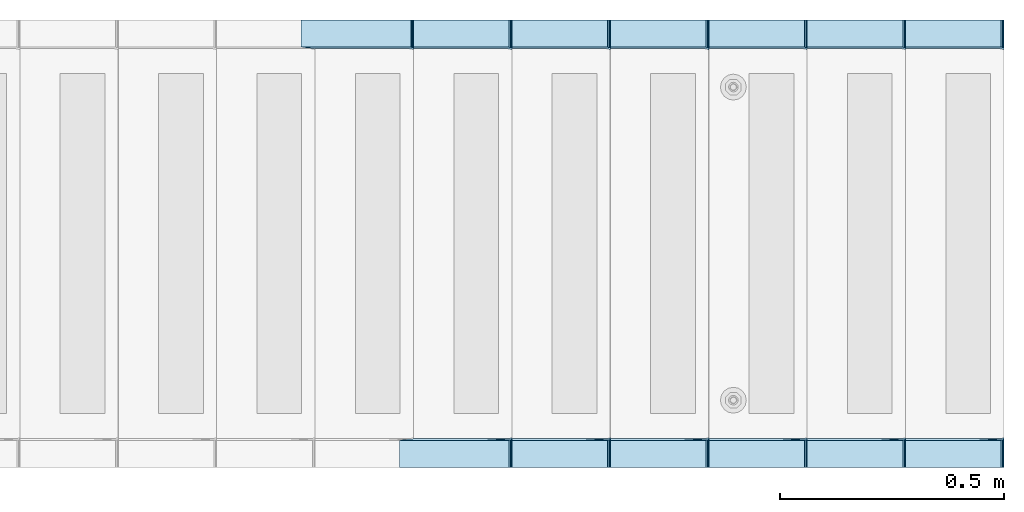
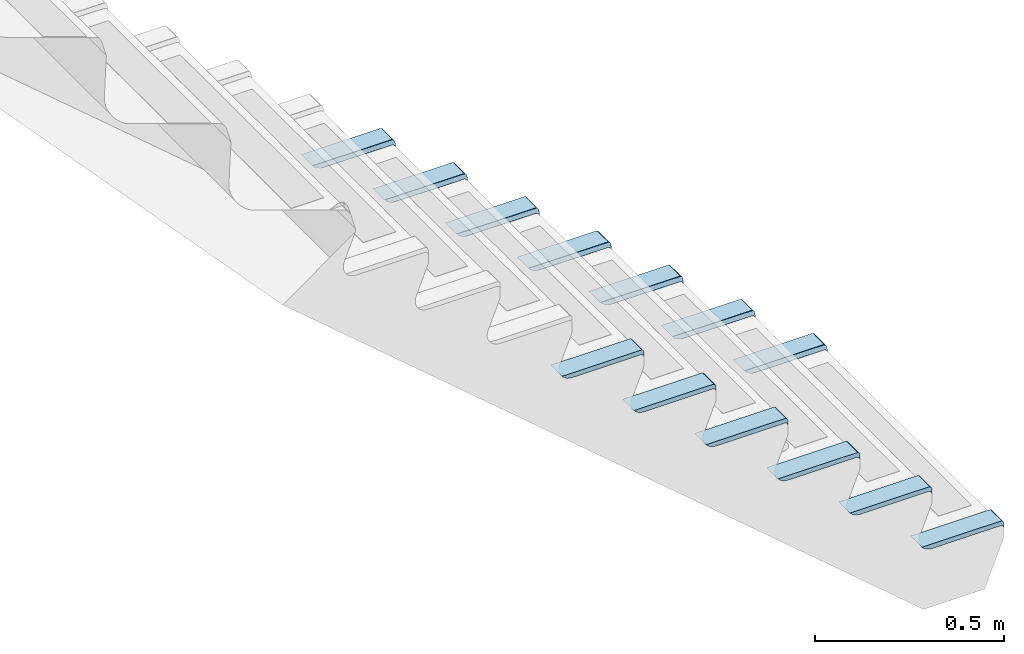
# One storey, part 4 of 4: 13 slabs, 1 element without a shape of its own.
"""IFC2X3 building model written with IfcOpenShell, lengths in millimetres."""

from ifc_helpers import new_model, si_unit, frame, origin_with_axes, place, context, subcontext, project, spatial, faceted_brep, material, type_object, element, aggregate, save


model = new_model("IFC2X3")

# Units and contexts
model_context = context("Model", 3, precision=1e-05, world=origin_with_axes())
body_context = subcontext(model_context, "Body", "Model", "MODEL_VIEW")
ifc_project = project(units=[si_unit("LENGTHUNIT", "METRE", prefix="MILLI"), si_unit("AREAUNIT", "SQUARE_METRE"), si_unit("VOLUMEUNIT", "CUBIC_METRE"), si_unit("MASSUNIT", "GRAM", prefix="KILO"), si_unit("TIMEUNIT", "SECOND"), si_unit("PLANEANGLEUNIT", "RADIAN"), si_unit("SOLIDANGLEUNIT", "STERADIAN"), si_unit("THERMODYNAMICTEMPERATUREUNIT", "DEGREE_CELSIUS"), si_unit("LUMINOUSINTENSITYUNIT", "LUMEN")], contexts=[model_context])

# Site, building, storey
site_placement = place(None, origin_with_axes())
site = spatial("IfcSite", under=ifc_project, at=site_placement, Name="Undefined", CompositionType="ELEMENT")
building_placement = place(site_placement, origin_with_axes())
building = spatial("IfcBuilding", under=site, at=building_placement, Name="Undefined", CompositionType="ELEMENT")
storey_placement = place(building_placement, origin_with_axes())
storey = spatial("IfcBuildingStorey", under=building, at=storey_placement, Name="Undefined", CompositionType="ELEMENT", Elevation=0.0)

# Assembly, slabs
assembly_placement = place(storey_placement, origin_with_axes())
assembly = element("IfcElementAssembly", 1, at=assembly_placement, inside=storey, Name="Trap met bomen", AssemblyPlace="NOTDEFINED", PredefinedType="REINFORCEMENT_UNIT")
ifc_material = material(Name="CONCRETE/C55/67")
slab_type = type_object("IfcSlabType", Name="60*25", PredefinedType="NOTDEFINED")
slab_1_placement = place(assembly_placement, frame((6680.0, 12470.0, 1327.5), z_axis=(0.0, -1.0, 0.0), x_axis=(-1.0, 0.0, 0.0)))
slab_1 = element("IfcSlab", 2, at=slab_1_placement, type_object=slab_type, material=ifc_material, Name="Ridge", ObjectType="60*25", PredefinedType="FLOOR", context=body_context, shape_type="Brep", body=[
    faceted_brep([(220.0, 15.0, 34.0192379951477), (10.0, 15.0, 34.0192379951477), (228.881989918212, 14.0014135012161, 33.2859476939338), (0.0, 25.0, 36.6987299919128), (0.0, 10.0, 32.6794919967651), (0.761204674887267, 21.1731656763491, 36.0288569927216), (2.92893218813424, 17.9289321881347, 35.3589839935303), (6.17316567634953, 15.7612046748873, 34.689110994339), (237.320508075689, 11.0555127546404, 32.467074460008), (244.894224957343, 6.30938459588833, 31.648201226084), (2.92893218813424, 2.9289321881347, 31.3397459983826), (0.761204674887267, 6.17316567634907, 32.0096189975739), (6.17316567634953, 0.761204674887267, 30.6698729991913), (251.224989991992, 0.0, 30.0), (10.0, 0.0, 30.0), (0.0, 25.0, -30.0), (0.0, 10.0, -30.0), (0.761204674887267, 21.1731656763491, -30.0), (2.92893218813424, 17.9289321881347, -30.0), (6.17316567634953, 15.7612046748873, -30.0), (10.0, 15.0, -30.0), (220.0, 15.0, -30.0), (228.881989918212, 14.0014135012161, -30.0), (237.320508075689, 11.0555127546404, -30.0), (244.894224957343, 6.30938459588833, -30.0), (251.224989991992, 0.0, -30.0), (10.0, 0.0, -30.0), (6.17316567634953, 0.761204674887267, -30.0), (2.92893218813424, 2.9289321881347, -30.0), (0.761204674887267, 6.17316567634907, -30.0)], [[[0, 1, 2]], [[3, 4, 5]], [[6, 5, 4]], [[7, 6, 4]], [[7, 4, 1]], [[8, 2, 1]], [[8, 1, 4]], [[9, 8, 4]], [[10, 9, 11]], [[12, 9, 10]], [[13, 9, 12]], [[14, 13, 12]], [[4, 3, 15, 16]], [[3, 5, 17, 15]], [[5, 6, 18, 17]], [[6, 7, 19, 18]], [[7, 1, 20, 19]], [[1, 0, 21, 20]], [[0, 2, 22, 21]], [[2, 8, 23, 22]], [[8, 9, 24, 23]], [[9, 13, 25, 24]], [[13, 14, 26, 25]], [[14, 12, 27, 26]], [[12, 10, 28, 27]], [[10, 11, 29, 28]], [[11, 4, 16, 29]], [[17, 18, 19, 20, 21, 22, 23, 24, 25, 26, 27, 28, 29, 16, 15]], [[11, 9, 4]]]),
])
slab_2_placement = place(assembly_placement, frame((6900.0, 11530.0, 1140.0), z_axis=(0.0, -1.0, 0.0), x_axis=(-1.0, 0.0, 0.0)))
slab_2 = element("IfcSlab", 3, at=slab_2_placement, type_object=slab_type, material=ifc_material, Name="Ridge", ObjectType="60*25", PredefinedType="FLOOR", context=body_context, shape_type="Brep", body=[
    faceted_brep([(10.0, 0.0, -30.0), (6.17316567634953, 0.761204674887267, -30.6698729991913), (251.224989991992, 0.0, -30.0), (2.92893218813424, 2.9289321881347, -31.3397459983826), (0.761204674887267, 6.17316567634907, -32.0096189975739), (244.894224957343, 6.30938459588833, -31.648201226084), (0.0, 10.0, -32.6794919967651), (237.320508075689, 11.0555127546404, -32.467074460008), (228.881989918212, 14.0014135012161, -33.2859476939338), (220.0, 15.0, -34.0192379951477), (10.0, 15.0, -34.0192379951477), (6.17316567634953, 15.7612046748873, -34.689110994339), (2.92893218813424, 17.9289321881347, -35.3589839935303), (0.761204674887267, 21.1731656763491, -36.0288569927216), (0.0, 10.0, 30.0), (0.0, 25.0, 30.0), (0.0, 25.0, -36.6987299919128), (0.761204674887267, 21.1731656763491, 30.0), (2.92893218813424, 17.9289321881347, 30.0), (6.17316567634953, 15.7612046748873, 30.0), (10.0, 15.0, 30.0), (220.0, 15.0, 30.0), (228.881989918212, 14.0014135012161, 30.0), (237.320508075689, 11.0555127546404, 30.0), (244.894224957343, 6.30938459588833, 30.0), (251.224989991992, 0.0, 30.0), (10.0, 0.0, 30.0), (6.17316567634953, 0.761204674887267, 30.0), (2.92893218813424, 2.9289321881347, 30.0), (0.761204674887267, 6.17316567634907, 30.0)], [[[0, 1, 2]], [[3, 2, 1]], [[4, 2, 3]], [[5, 2, 4]], [[6, 5, 4]], [[7, 5, 6]], [[8, 7, 6]], [[9, 8, 6]], [[10, 9, 6]], [[11, 10, 6]], [[12, 11, 6]], [[13, 12, 6]], [[14, 15, 16, 6]], [[15, 17, 13, 16]], [[17, 18, 12, 13]], [[18, 19, 11, 12]], [[19, 20, 10, 11]], [[20, 21, 9, 10]], [[21, 22, 8, 9]], [[22, 23, 7, 8]], [[23, 24, 5, 7]], [[24, 25, 2, 5]], [[25, 26, 0, 2]], [[26, 27, 1, 0]], [[27, 28, 3, 1]], [[28, 29, 4, 3]], [[29, 14, 6, 4]], [[16, 13, 6]], [[29, 28, 27, 26, 25, 24, 23, 22, 21, 20, 19, 18, 17, 15, 14]]]),
])
slab_3_placement = place(assembly_placement, frame((6900.0, 12470.0, 1140.0), z_axis=(0.0, -1.0, 0.0), x_axis=(-1.0, 0.0, 0.0)))
slab_3 = element("IfcSlab", 4, at=slab_3_placement, type_object=slab_type, material=ifc_material, Name="Ridge", ObjectType="60*25", PredefinedType="FLOOR", context=body_context, shape_type="Brep", body=[
    faceted_brep([(220.0, 15.0, 34.0192379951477), (10.0, 15.0, 34.0192379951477), (228.881989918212, 14.0014135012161, 33.2859476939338), (0.0, 25.0, 36.6987299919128), (0.0, 10.0, 32.6794919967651), (0.761204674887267, 21.1731656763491, 36.0288569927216), (2.92893218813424, 17.9289321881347, 35.3589839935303), (6.17316567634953, 15.7612046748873, 34.689110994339), (237.320508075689, 11.0555127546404, 32.467074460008), (244.894224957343, 6.30938459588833, 31.648201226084), (2.92893218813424, 2.9289321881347, 31.3397459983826), (0.761204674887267, 6.17316567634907, 32.0096189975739), (6.17316567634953, 0.761204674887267, 30.6698729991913), (251.224989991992, 0.0, 30.0), (10.0, 0.0, 30.0), (0.0, 25.0, -30.0), (0.0, 10.0, -30.0), (0.761204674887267, 21.1731656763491, -30.0), (2.92893218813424, 17.9289321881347, -30.0), (6.17316567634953, 15.7612046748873, -30.0), (10.0, 15.0, -30.0), (220.0, 15.0, -30.0), (228.881989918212, 14.0014135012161, -30.0), (237.320508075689, 11.0555127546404, -30.0), (244.894224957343, 6.30938459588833, -30.0), (251.224989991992, 0.0, -30.0), (10.0, 0.0, -30.0), (6.17316567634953, 0.761204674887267, -30.0), (2.92893218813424, 2.9289321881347, -30.0), (0.761204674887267, 6.17316567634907, -30.0)], [[[0, 1, 2]], [[3, 4, 5]], [[6, 5, 4]], [[7, 6, 4]], [[7, 4, 1]], [[8, 2, 1]], [[8, 1, 4]], [[9, 8, 4]], [[10, 9, 11]], [[12, 9, 10]], [[13, 9, 12]], [[14, 13, 12]], [[4, 3, 15, 16]], [[3, 5, 17, 15]], [[5, 6, 18, 17]], [[6, 7, 19, 18]], [[7, 1, 20, 19]], [[1, 0, 21, 20]], [[0, 2, 22, 21]], [[2, 8, 23, 22]], [[8, 9, 24, 23]], [[9, 13, 25, 24]], [[13, 14, 26, 25]], [[14, 12, 27, 26]], [[12, 10, 28, 27]], [[10, 11, 29, 28]], [[11, 4, 16, 29]], [[17, 18, 19, 20, 21, 22, 23, 24, 25, 26, 27, 28, 29, 16, 15]], [[11, 9, 4]]]),
])
slab_4_placement = place(assembly_placement, frame((7120.0, 11530.0, 952.500000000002), z_axis=(0.0, -1.0, 0.0), x_axis=(-1.0, 0.0, 0.0)))
slab_4 = element("IfcSlab", 5, at=slab_4_placement, type_object=slab_type, material=ifc_material, Name="Ridge", ObjectType="60*25", PredefinedType="FLOOR", context=body_context, shape_type="Brep", body=[
    faceted_brep([(10.0, 0.0, -30.0), (6.17316567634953, 0.761204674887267, -30.6698729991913), (251.224989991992, 0.0, -30.0), (2.92893218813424, 2.9289321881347, -31.3397459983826), (0.761204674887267, 6.17316567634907, -32.0096189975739), (244.894224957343, 6.30938459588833, -31.648201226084), (0.0, 10.0, -32.6794919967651), (237.320508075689, 11.0555127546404, -32.467074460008), (228.881989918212, 14.0014135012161, -33.2859476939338), (220.0, 15.0, -34.0192379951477), (10.0, 15.0, -34.0192379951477), (6.17316567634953, 15.7612046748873, -34.689110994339), (2.92893218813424, 17.9289321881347, -35.3589839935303), (0.761204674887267, 21.1731656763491, -36.0288569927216), (0.0, 10.0, 30.0), (0.0, 25.0, 30.0), (0.0, 25.0, -36.6987299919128), (0.761204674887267, 21.1731656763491, 30.0), (2.92893218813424, 17.9289321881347, 30.0), (6.17316567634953, 15.7612046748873, 30.0), (10.0, 15.0, 30.0), (220.0, 15.0, 30.0), (228.881989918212, 14.0014135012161, 30.0), (237.320508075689, 11.0555127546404, 30.0), (244.894224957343, 6.30938459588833, 30.0), (251.224989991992, 0.0, 30.0), (10.0, 0.0, 30.0), (6.17316567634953, 0.761204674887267, 30.0), (2.92893218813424, 2.9289321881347, 30.0), (0.761204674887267, 6.17316567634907, 30.0)], [[[0, 1, 2]], [[3, 2, 1]], [[4, 2, 3]], [[5, 2, 4]], [[6, 5, 4]], [[7, 5, 6]], [[8, 7, 6]], [[9, 8, 6]], [[10, 9, 6]], [[11, 10, 6]], [[12, 11, 6]], [[13, 12, 6]], [[14, 15, 16, 6]], [[15, 17, 13, 16]], [[17, 18, 12, 13]], [[18, 19, 11, 12]], [[19, 20, 10, 11]], [[20, 21, 9, 10]], [[21, 22, 8, 9]], [[22, 23, 7, 8]], [[23, 24, 5, 7]], [[24, 25, 2, 5]], [[25, 26, 0, 2]], [[26, 27, 1, 0]], [[27, 28, 3, 1]], [[28, 29, 4, 3]], [[29, 14, 6, 4]], [[16, 13, 6]], [[29, 28, 27, 26, 25, 24, 23, 22, 21, 20, 19, 18, 17, 15, 14]]]),
])
slab_5_placement = place(assembly_placement, frame((7120.0, 12470.0, 952.500000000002), z_axis=(0.0, -1.0, 0.0), x_axis=(-1.0, 0.0, 0.0)))
slab_5 = element("IfcSlab", 6, at=slab_5_placement, type_object=slab_type, material=ifc_material, Name="Ridge", ObjectType="60*25", PredefinedType="FLOOR", context=body_context, shape_type="Brep", body=[
    faceted_brep([(220.0, 15.0, 34.0192379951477), (10.0, 15.0, 34.0192379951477), (228.881989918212, 14.0014135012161, 33.2859476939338), (0.0, 25.0, 36.6987299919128), (0.0, 10.0, 32.6794919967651), (0.761204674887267, 21.1731656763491, 36.0288569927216), (2.92893218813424, 17.9289321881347, 35.3589839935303), (6.17316567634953, 15.7612046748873, 34.689110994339), (237.320508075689, 11.0555127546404, 32.467074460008), (244.894224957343, 6.30938459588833, 31.648201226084), (2.92893218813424, 2.9289321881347, 31.3397459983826), (0.761204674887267, 6.17316567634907, 32.0096189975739), (6.17316567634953, 0.761204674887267, 30.6698729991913), (251.224989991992, 0.0, 30.0), (10.0, 0.0, 30.0), (0.0, 25.0, -30.0), (0.0, 10.0, -30.0), (0.761204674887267, 21.1731656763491, -30.0), (2.92893218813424, 17.9289321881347, -30.0), (6.17316567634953, 15.7612046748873, -30.0), (10.0, 15.0, -30.0), (220.0, 15.0, -30.0), (228.881989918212, 14.0014135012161, -30.0), (237.320508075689, 11.0555127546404, -30.0), (244.894224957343, 6.30938459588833, -30.0), (251.224989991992, 0.0, -30.0), (10.0, 0.0, -30.0), (6.17316567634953, 0.761204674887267, -30.0), (2.92893218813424, 2.9289321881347, -30.0), (0.761204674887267, 6.17316567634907, -30.0)], [[[0, 1, 2]], [[3, 4, 5]], [[6, 5, 4]], [[7, 6, 4]], [[7, 4, 1]], [[8, 2, 1]], [[8, 1, 4]], [[9, 8, 4]], [[10, 9, 11]], [[12, 9, 10]], [[13, 9, 12]], [[14, 13, 12]], [[4, 3, 15, 16]], [[3, 5, 17, 15]], [[5, 6, 18, 17]], [[6, 7, 19, 18]], [[7, 1, 20, 19]], [[1, 0, 21, 20]], [[0, 2, 22, 21]], [[2, 8, 23, 22]], [[8, 9, 24, 23]], [[9, 13, 25, 24]], [[13, 14, 26, 25]], [[14, 12, 27, 26]], [[12, 10, 28, 27]], [[10, 11, 29, 28]], [[11, 4, 16, 29]], [[17, 18, 19, 20, 21, 22, 23, 24, 25, 26, 27, 28, 29, 16, 15]], [[11, 9, 4]]]),
])
slab_6_placement = place(assembly_placement, frame((7340.0, 11530.0, 765.000000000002), z_axis=(0.0, -1.0, 0.0), x_axis=(-1.0, 0.0, 0.0)))
slab_6 = element("IfcSlab", 7, at=slab_6_placement, type_object=slab_type, material=ifc_material, Name="Ridge", ObjectType="60*25", PredefinedType="FLOOR", context=body_context, shape_type="Brep", body=[
    faceted_brep([(10.0, 0.0, -30.0), (6.17316567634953, 0.761204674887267, -30.6698729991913), (251.224989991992, 0.0, -30.0), (2.92893218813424, 2.9289321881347, -31.3397459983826), (0.761204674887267, 6.17316567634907, -32.0096189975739), (244.894224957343, 6.30938459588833, -31.648201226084), (0.0, 10.0, -32.6794919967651), (237.320508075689, 11.0555127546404, -32.467074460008), (228.881989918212, 14.0014135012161, -33.2859476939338), (220.0, 15.0, -34.0192379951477), (10.0, 15.0, -34.0192379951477), (6.17316567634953, 15.7612046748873, -34.689110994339), (2.92893218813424, 17.9289321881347, -35.3589839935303), (0.761204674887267, 21.1731656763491, -36.0288569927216), (0.0, 10.0, 30.0), (0.0, 25.0, 30.0), (0.0, 25.0, -36.6987299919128), (0.761204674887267, 21.1731656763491, 30.0), (2.92893218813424, 17.9289321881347, 30.0), (6.17316567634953, 15.7612046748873, 30.0), (10.0, 15.0, 30.0), (220.0, 15.0, 30.0), (228.881989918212, 14.0014135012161, 30.0), (237.320508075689, 11.0555127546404, 30.0), (244.894224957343, 6.30938459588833, 30.0), (251.224989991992, 0.0, 30.0), (10.0, 0.0, 30.0), (6.17316567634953, 0.761204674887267, 30.0), (2.92893218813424, 2.9289321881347, 30.0), (0.761204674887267, 6.17316567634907, 30.0)], [[[0, 1, 2]], [[3, 2, 1]], [[4, 2, 3]], [[5, 2, 4]], [[6, 5, 4]], [[7, 5, 6]], [[8, 7, 6]], [[9, 8, 6]], [[10, 9, 6]], [[11, 10, 6]], [[12, 11, 6]], [[13, 12, 6]], [[14, 15, 16, 6]], [[15, 17, 13, 16]], [[17, 18, 12, 13]], [[18, 19, 11, 12]], [[19, 20, 10, 11]], [[20, 21, 9, 10]], [[21, 22, 8, 9]], [[22, 23, 7, 8]], [[23, 24, 5, 7]], [[24, 25, 2, 5]], [[25, 26, 0, 2]], [[26, 27, 1, 0]], [[27, 28, 3, 1]], [[28, 29, 4, 3]], [[29, 14, 6, 4]], [[16, 13, 6]], [[29, 28, 27, 26, 25, 24, 23, 22, 21, 20, 19, 18, 17, 15, 14]]]),
])
slab_7_placement = place(assembly_placement, frame((7340.0, 12470.0, 765.000000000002), z_axis=(0.0, -1.0, 0.0), x_axis=(-1.0, 0.0, 0.0)))
slab_7 = element("IfcSlab", 8, at=slab_7_placement, type_object=slab_type, material=ifc_material, Name="Ridge", ObjectType="60*25", PredefinedType="FLOOR", context=body_context, shape_type="Brep", body=[
    faceted_brep([(220.0, 15.0, 34.0192379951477), (10.0, 15.0, 34.0192379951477), (228.881989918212, 14.0014135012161, 33.2859476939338), (0.0, 25.0, 36.6987299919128), (0.0, 10.0, 32.6794919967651), (0.761204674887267, 21.1731656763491, 36.0288569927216), (2.92893218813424, 17.9289321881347, 35.3589839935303), (6.17316567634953, 15.7612046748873, 34.689110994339), (237.320508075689, 11.0555127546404, 32.467074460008), (244.894224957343, 6.30938459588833, 31.648201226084), (2.92893218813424, 2.9289321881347, 31.3397459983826), (0.761204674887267, 6.17316567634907, 32.0096189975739), (6.17316567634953, 0.761204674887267, 30.6698729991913), (251.224989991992, 0.0, 30.0), (10.0, 0.0, 30.0), (0.0, 25.0, -30.0), (0.0, 10.0, -30.0), (0.761204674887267, 21.1731656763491, -30.0), (2.92893218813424, 17.9289321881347, -30.0), (6.17316567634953, 15.7612046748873, -30.0), (10.0, 15.0, -30.0), (220.0, 15.0, -30.0), (228.881989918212, 14.0014135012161, -30.0), (237.320508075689, 11.0555127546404, -30.0), (244.894224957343, 6.30938459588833, -30.0), (251.224989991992, 0.0, -30.0), (10.0, 0.0, -30.0), (6.17316567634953, 0.761204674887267, -30.0), (2.92893218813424, 2.9289321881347, -30.0), (0.761204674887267, 6.17316567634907, -30.0)], [[[0, 1, 2]], [[3, 4, 5]], [[6, 5, 4]], [[7, 6, 4]], [[7, 4, 1]], [[8, 2, 1]], [[8, 1, 4]], [[9, 8, 4]], [[10, 9, 11]], [[12, 9, 10]], [[13, 9, 12]], [[14, 13, 12]], [[4, 3, 15, 16]], [[3, 5, 17, 15]], [[5, 6, 18, 17]], [[6, 7, 19, 18]], [[7, 1, 20, 19]], [[1, 0, 21, 20]], [[0, 2, 22, 21]], [[2, 8, 23, 22]], [[8, 9, 24, 23]], [[9, 13, 25, 24]], [[13, 14, 26, 25]], [[14, 12, 27, 26]], [[12, 10, 28, 27]], [[10, 11, 29, 28]], [[11, 4, 16, 29]], [[17, 18, 19, 20, 21, 22, 23, 24, 25, 26, 27, 28, 29, 16, 15]], [[11, 9, 4]]]),
])
slab_8_placement = place(assembly_placement, frame((7560.0, 11530.0, 577.500000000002), z_axis=(0.0, -1.0, 0.0), x_axis=(-1.0, 0.0, 0.0)))
slab_8 = element("IfcSlab", 9, at=slab_8_placement, type_object=slab_type, material=ifc_material, Name="Ridge", ObjectType="60*25", PredefinedType="FLOOR", context=body_context, shape_type="Brep", body=[
    faceted_brep([(10.0, 0.0, -30.0), (6.17316567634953, 0.761204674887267, -30.6698729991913), (251.224989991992, 0.0, -30.0), (2.92893218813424, 2.9289321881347, -31.3397459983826), (0.761204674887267, 6.17316567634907, -32.0096189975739), (244.894224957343, 6.30938459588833, -31.648201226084), (0.0, 10.0, -32.6794919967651), (237.320508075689, 11.0555127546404, -32.467074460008), (228.881989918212, 14.0014135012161, -33.2859476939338), (220.0, 15.0, -34.0192379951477), (10.0, 15.0, -34.0192379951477), (6.17316567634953, 15.7612046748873, -34.689110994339), (2.92893218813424, 17.9289321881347, -35.3589839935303), (0.761204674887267, 21.1731656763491, -36.0288569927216), (0.0, 10.0, 30.0), (0.0, 25.0, 30.0), (0.0, 25.0, -36.6987299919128), (0.761204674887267, 21.1731656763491, 30.0), (2.92893218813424, 17.9289321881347, 30.0), (6.17316567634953, 15.7612046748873, 30.0), (10.0, 15.0, 30.0), (220.0, 15.0, 30.0), (228.881989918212, 14.0014135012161, 30.0), (237.320508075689, 11.0555127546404, 30.0), (244.894224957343, 6.30938459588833, 30.0), (251.224989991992, 0.0, 30.0), (10.0, 0.0, 30.0), (6.17316567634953, 0.761204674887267, 30.0), (2.92893218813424, 2.9289321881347, 30.0), (0.761204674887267, 6.17316567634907, 30.0)], [[[0, 1, 2]], [[3, 2, 1]], [[4, 2, 3]], [[5, 2, 4]], [[6, 5, 4]], [[7, 5, 6]], [[8, 7, 6]], [[9, 8, 6]], [[10, 9, 6]], [[11, 10, 6]], [[12, 11, 6]], [[13, 12, 6]], [[14, 15, 16, 6]], [[15, 17, 13, 16]], [[17, 18, 12, 13]], [[18, 19, 11, 12]], [[19, 20, 10, 11]], [[20, 21, 9, 10]], [[21, 22, 8, 9]], [[22, 23, 7, 8]], [[23, 24, 5, 7]], [[24, 25, 2, 5]], [[25, 26, 0, 2]], [[26, 27, 1, 0]], [[27, 28, 3, 1]], [[28, 29, 4, 3]], [[29, 14, 6, 4]], [[16, 13, 6]], [[29, 28, 27, 26, 25, 24, 23, 22, 21, 20, 19, 18, 17, 15, 14]]]),
])
slab_9_placement = place(assembly_placement, frame((7560.0, 12470.0, 577.500000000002), z_axis=(0.0, -1.0, 0.0), x_axis=(-1.0, 0.0, 0.0)))
slab_9 = element("IfcSlab", 10, at=slab_9_placement, type_object=slab_type, material=ifc_material, Name="Ridge", ObjectType="60*25", PredefinedType="FLOOR", context=body_context, shape_type="Brep", body=[
    faceted_brep([(220.0, 15.0, 34.0192379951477), (10.0, 15.0, 34.0192379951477), (228.881989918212, 14.0014135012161, 33.2859476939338), (0.0, 25.0, 36.6987299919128), (0.0, 10.0, 32.6794919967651), (0.761204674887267, 21.1731656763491, 36.0288569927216), (2.92893218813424, 17.9289321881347, 35.3589839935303), (6.17316567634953, 15.7612046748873, 34.689110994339), (237.320508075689, 11.0555127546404, 32.467074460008), (244.894224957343, 6.30938459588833, 31.648201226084), (2.92893218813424, 2.9289321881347, 31.3397459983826), (0.761204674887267, 6.17316567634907, 32.0096189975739), (6.17316567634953, 0.761204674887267, 30.6698729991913), (251.224989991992, 0.0, 30.0), (10.0, 0.0, 30.0), (0.0, 25.0, -30.0), (0.0, 10.0, -30.0), (0.761204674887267, 21.1731656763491, -30.0), (2.92893218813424, 17.9289321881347, -30.0), (6.17316567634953, 15.7612046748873, -30.0), (10.0, 15.0, -30.0), (220.0, 15.0, -30.0), (228.881989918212, 14.0014135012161, -30.0), (237.320508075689, 11.0555127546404, -30.0), (244.894224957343, 6.30938459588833, -30.0), (251.224989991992, 0.0, -30.0), (10.0, 0.0, -30.0), (6.17316567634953, 0.761204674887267, -30.0), (2.92893218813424, 2.9289321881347, -30.0), (0.761204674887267, 6.17316567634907, -30.0)], [[[0, 1, 2]], [[3, 4, 5]], [[6, 5, 4]], [[7, 6, 4]], [[7, 4, 1]], [[8, 2, 1]], [[8, 1, 4]], [[9, 8, 4]], [[10, 9, 11]], [[12, 9, 10]], [[13, 9, 12]], [[14, 13, 12]], [[4, 3, 15, 16]], [[3, 5, 17, 15]], [[5, 6, 18, 17]], [[6, 7, 19, 18]], [[7, 1, 20, 19]], [[1, 0, 21, 20]], [[0, 2, 22, 21]], [[2, 8, 23, 22]], [[8, 9, 24, 23]], [[9, 13, 25, 24]], [[13, 14, 26, 25]], [[14, 12, 27, 26]], [[12, 10, 28, 27]], [[10, 11, 29, 28]], [[11, 4, 16, 29]], [[17, 18, 19, 20, 21, 22, 23, 24, 25, 26, 27, 28, 29, 16, 15]], [[11, 9, 4]]]),
])
slab_10_placement = place(assembly_placement, frame((7780.0, 11530.0, 390.000000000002), z_axis=(0.0, -1.0, 0.0), x_axis=(-1.0, 0.0, 0.0)))
slab_10 = element("IfcSlab", 11, at=slab_10_placement, type_object=slab_type, material=ifc_material, Name="Ridge", ObjectType="60*25", PredefinedType="FLOOR", context=body_context, shape_type="Brep", body=[
    faceted_brep([(10.0, 0.0, -30.0), (6.17316567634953, 0.761204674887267, -30.6698729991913), (251.224989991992, 0.0, -30.0), (2.92893218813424, 2.9289321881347, -31.3397459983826), (0.761204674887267, 6.17316567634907, -32.0096189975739), (244.894224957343, 6.30938459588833, -31.648201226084), (0.0, 10.0, -32.6794919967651), (237.320508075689, 11.0555127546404, -32.467074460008), (228.881989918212, 14.0014135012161, -33.2859476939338), (220.0, 15.0, -34.0192379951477), (10.0, 15.0, -34.0192379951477), (6.17316567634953, 15.7612046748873, -34.689110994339), (2.92893218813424, 17.9289321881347, -35.3589839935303), (0.761204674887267, 21.1731656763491, -36.0288569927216), (0.0, 10.0, 30.0), (0.0, 25.0, 30.0), (0.0, 25.0, -36.6987299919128), (0.761204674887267, 21.1731656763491, 30.0), (2.92893218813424, 17.9289321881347, 30.0), (6.17316567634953, 15.7612046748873, 30.0), (10.0, 15.0, 30.0), (220.0, 15.0, 30.0), (228.881989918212, 14.0014135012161, 30.0), (237.320508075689, 11.0555127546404, 30.0), (244.894224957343, 6.30938459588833, 30.0), (251.224989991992, 0.0, 30.0), (10.0, 0.0, 30.0), (6.17316567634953, 0.761204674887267, 30.0), (2.92893218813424, 2.9289321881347, 30.0), (0.761204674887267, 6.17316567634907, 30.0)], [[[0, 1, 2]], [[3, 2, 1]], [[4, 2, 3]], [[5, 2, 4]], [[6, 5, 4]], [[7, 5, 6]], [[8, 7, 6]], [[9, 8, 6]], [[10, 9, 6]], [[11, 10, 6]], [[12, 11, 6]], [[13, 12, 6]], [[14, 15, 16, 6]], [[15, 17, 13, 16]], [[17, 18, 12, 13]], [[18, 19, 11, 12]], [[19, 20, 10, 11]], [[20, 21, 9, 10]], [[21, 22, 8, 9]], [[22, 23, 7, 8]], [[23, 24, 5, 7]], [[24, 25, 2, 5]], [[25, 26, 0, 2]], [[26, 27, 1, 0]], [[27, 28, 3, 1]], [[28, 29, 4, 3]], [[29, 14, 6, 4]], [[16, 13, 6]], [[29, 28, 27, 26, 25, 24, 23, 22, 21, 20, 19, 18, 17, 15, 14]]]),
])
slab_11_placement = place(assembly_placement, frame((7780.0, 12470.0, 390.000000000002), z_axis=(0.0, -1.0, 0.0), x_axis=(-1.0, 0.0, 0.0)))
slab_11 = element("IfcSlab", 12, at=slab_11_placement, type_object=slab_type, material=ifc_material, Name="Ridge", ObjectType="60*25", PredefinedType="FLOOR", context=body_context, shape_type="Brep", body=[
    faceted_brep([(220.0, 15.0, 34.0192379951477), (10.0, 15.0, 34.0192379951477), (228.881989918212, 14.0014135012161, 33.2859476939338), (0.0, 25.0, 36.6987299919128), (0.0, 10.0, 32.6794919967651), (0.761204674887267, 21.1731656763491, 36.0288569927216), (2.92893218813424, 17.9289321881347, 35.3589839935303), (6.17316567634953, 15.7612046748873, 34.689110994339), (237.320508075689, 11.0555127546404, 32.467074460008), (244.894224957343, 6.30938459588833, 31.648201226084), (2.92893218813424, 2.9289321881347, 31.3397459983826), (0.761204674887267, 6.17316567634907, 32.0096189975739), (6.17316567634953, 0.761204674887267, 30.6698729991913), (251.224989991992, 0.0, 30.0), (10.0, 0.0, 30.0), (0.0, 25.0, -30.0), (0.0, 10.0, -30.0), (0.761204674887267, 21.1731656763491, -30.0), (2.92893218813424, 17.9289321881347, -30.0), (6.17316567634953, 15.7612046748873, -30.0), (10.0, 15.0, -30.0), (220.0, 15.0, -30.0), (228.881989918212, 14.0014135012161, -30.0), (237.320508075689, 11.0555127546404, -30.0), (244.894224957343, 6.30938459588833, -30.0), (251.224989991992, 0.0, -30.0), (10.0, 0.0, -30.0), (6.17316567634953, 0.761204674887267, -30.0), (2.92893218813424, 2.9289321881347, -30.0), (0.761204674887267, 6.17316567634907, -30.0)], [[[0, 1, 2]], [[3, 4, 5]], [[6, 5, 4]], [[7, 6, 4]], [[7, 4, 1]], [[8, 2, 1]], [[8, 1, 4]], [[9, 8, 4]], [[10, 9, 11]], [[12, 9, 10]], [[13, 9, 12]], [[14, 13, 12]], [[4, 3, 15, 16]], [[3, 5, 17, 15]], [[5, 6, 18, 17]], [[6, 7, 19, 18]], [[7, 1, 20, 19]], [[1, 0, 21, 20]], [[0, 2, 22, 21]], [[2, 8, 23, 22]], [[8, 9, 24, 23]], [[9, 13, 25, 24]], [[13, 14, 26, 25]], [[14, 12, 27, 26]], [[12, 10, 28, 27]], [[10, 11, 29, 28]], [[11, 4, 16, 29]], [[17, 18, 19, 20, 21, 22, 23, 24, 25, 26, 27, 28, 29, 16, 15]], [[11, 9, 4]]]),
])
slab_12_placement = place(assembly_placement, frame((8000.0, 11530.0, 202.500000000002), z_axis=(0.0, -1.0, 0.0), x_axis=(-1.0, 0.0, 0.0)))
slab_12 = element("IfcSlab", 13, at=slab_12_placement, type_object=slab_type, material=ifc_material, Name="Ridge", ObjectType="60*25", PredefinedType="FLOOR", context=body_context, shape_type="Brep", body=[
    faceted_brep([(10.0, 0.0, -30.0), (6.17316567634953, 0.761204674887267, -30.6698729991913), (251.224989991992, 0.0, -30.0), (2.92893218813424, 2.9289321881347, -31.3397459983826), (0.761204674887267, 6.17316567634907, -32.0096189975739), (244.894224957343, 6.30938459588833, -31.648201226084), (0.0, 10.0, -32.6794919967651), (237.320508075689, 11.0555127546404, -32.467074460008), (228.881989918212, 14.0014135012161, -33.2859476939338), (220.0, 15.0, -34.0192379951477), (10.0, 15.0, -34.0192379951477), (6.17316567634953, 15.7612046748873, -34.689110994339), (2.92893218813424, 17.9289321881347, -35.3589839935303), (0.761204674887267, 21.1731656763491, -36.0288569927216), (0.0, 10.0, 30.0), (0.0, 25.0, 30.0), (0.0, 25.0, -36.6987299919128), (0.761204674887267, 21.1731656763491, 30.0), (2.92893218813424, 17.9289321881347, 30.0), (6.17316567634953, 15.7612046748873, 30.0), (10.0, 15.0, 30.0), (220.0, 15.0, 30.0), (228.881989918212, 14.0014135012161, 30.0), (237.320508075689, 11.0555127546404, 30.0), (244.894224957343, 6.30938459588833, 30.0), (251.224989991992, 0.0, 30.0), (10.0, 0.0, 30.0), (6.17316567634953, 0.761204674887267, 30.0), (2.92893218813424, 2.9289321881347, 30.0), (0.761204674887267, 6.17316567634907, 30.0)], [[[0, 1, 2]], [[3, 2, 1]], [[4, 2, 3]], [[5, 2, 4]], [[6, 5, 4]], [[7, 5, 6]], [[8, 7, 6]], [[9, 8, 6]], [[10, 9, 6]], [[11, 10, 6]], [[12, 11, 6]], [[13, 12, 6]], [[14, 15, 16, 6]], [[15, 17, 13, 16]], [[17, 18, 12, 13]], [[18, 19, 11, 12]], [[19, 20, 10, 11]], [[20, 21, 9, 10]], [[21, 22, 8, 9]], [[22, 23, 7, 8]], [[23, 24, 5, 7]], [[24, 25, 2, 5]], [[25, 26, 0, 2]], [[26, 27, 1, 0]], [[27, 28, 3, 1]], [[28, 29, 4, 3]], [[29, 14, 6, 4]], [[16, 13, 6]], [[29, 28, 27, 26, 25, 24, 23, 22, 21, 20, 19, 18, 17, 15, 14]]]),
])
slab_13_placement = place(assembly_placement, frame((8000.0, 12470.0, 202.500000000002), z_axis=(0.0, -1.0, 0.0), x_axis=(-1.0, 0.0, 0.0)))
slab_13 = element("IfcSlab", 14, at=slab_13_placement, type_object=slab_type, material=ifc_material, Name="Ridge", ObjectType="60*25", PredefinedType="FLOOR", context=body_context, shape_type="Brep", body=[
    faceted_brep([(220.0, 15.0, 34.0192379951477), (10.0, 15.0, 34.0192379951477), (228.881989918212, 14.0014135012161, 33.2859476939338), (0.0, 25.0, 36.6987299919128), (0.0, 10.0, 32.6794919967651), (0.761204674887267, 21.1731656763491, 36.0288569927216), (2.92893218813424, 17.9289321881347, 35.3589839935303), (6.17316567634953, 15.7612046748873, 34.689110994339), (237.320508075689, 11.0555127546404, 32.467074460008), (244.894224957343, 6.30938459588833, 31.648201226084), (2.92893218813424, 2.9289321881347, 31.3397459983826), (0.761204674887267, 6.17316567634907, 32.0096189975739), (6.17316567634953, 0.761204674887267, 30.6698729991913), (251.224989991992, 0.0, 30.0), (10.0, 0.0, 30.0), (0.0, 25.0, -30.0), (0.0, 10.0, -30.0), (0.761204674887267, 21.1731656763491, -30.0), (2.92893218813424, 17.9289321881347, -30.0), (6.17316567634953, 15.7612046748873, -30.0), (10.0, 15.0, -30.0), (220.0, 15.0, -30.0), (228.881989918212, 14.0014135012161, -30.0), (237.320508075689, 11.0555127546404, -30.0), (244.894224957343, 6.30938459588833, -30.0), (251.224989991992, 0.0, -30.0), (10.0, 0.0, -30.0), (6.17316567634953, 0.761204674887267, -30.0), (2.92893218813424, 2.9289321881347, -30.0), (0.761204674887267, 6.17316567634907, -30.0)], [[[0, 1, 2]], [[3, 4, 5]], [[6, 5, 4]], [[7, 6, 4]], [[7, 4, 1]], [[8, 2, 1]], [[8, 1, 4]], [[9, 8, 4]], [[10, 9, 11]], [[12, 9, 10]], [[13, 9, 12]], [[14, 13, 12]], [[4, 3, 15, 16]], [[3, 5, 17, 15]], [[5, 6, 18, 17]], [[6, 7, 19, 18]], [[7, 1, 20, 19]], [[1, 0, 21, 20]], [[0, 2, 22, 21]], [[2, 8, 23, 22]], [[8, 9, 24, 23]], [[9, 13, 25, 24]], [[13, 14, 26, 25]], [[14, 12, 27, 26]], [[12, 10, 28, 27]], [[10, 11, 29, 28]], [[11, 4, 16, 29]], [[17, 18, 19, 20, 21, 22, 23, 24, 25, 26, 27, 28, 29, 16, 15]], [[11, 9, 4]]]),
])
aggregate(assembly, [slab_1, slab_2, slab_3, slab_4, slab_5, slab_6, slab_7, slab_8, slab_9, slab_10, slab_11, slab_12, slab_13])

save(model, "model.ifc")
